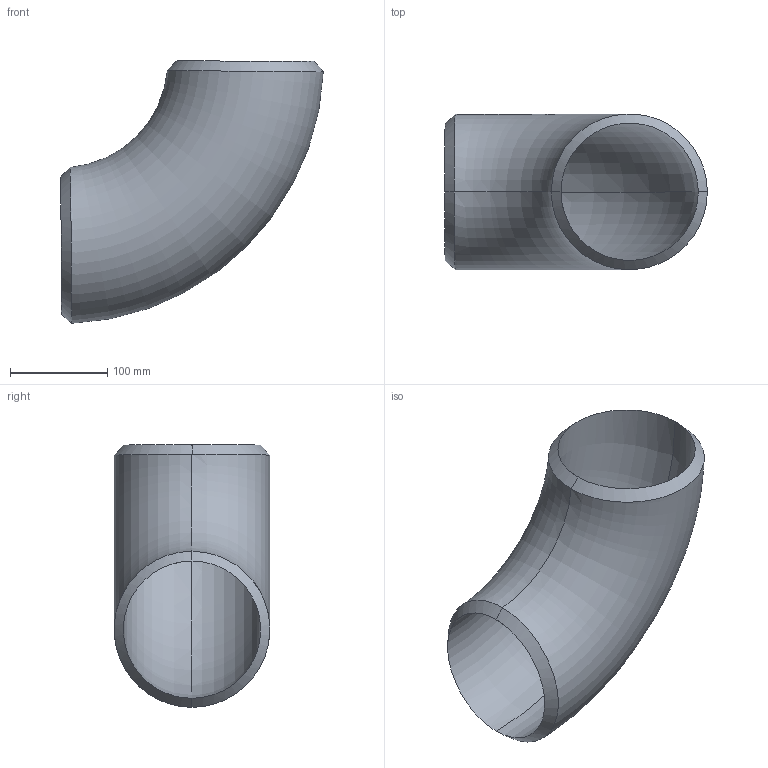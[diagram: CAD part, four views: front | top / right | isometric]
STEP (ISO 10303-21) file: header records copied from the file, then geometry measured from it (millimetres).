
FILE_DESCRIPTION (( 'STEP AP203' ), '1' );
FILE_NAME ('3D_R2651_5X80S_173421232_173425242.STEP', '2024-08-22T09:09:52', ( '' ), ( '' ), 'SwSTEP 2.0', 'SolidWorks 2024', '' );
FILE_SCHEMA (( 'CONFIG_CONTROL_DESIGN' ));
Length unit declared in the file: millimetre
Products named in the file (1): 3D_R2651_5X80S_173421232_173425242
Bounding box: 270.45 x 160.16 x 270.45 mm (x, y, z)
Volume: 1273729.8 mm3; surface area: 286323.8 mm2
Topology: 1 solids, 1 shells, 10 faces, 26 edges, 16 vertices
Faces by surface type: bspline 4, torus 4, plane 2
Entity records: 3515 total; most frequent: CARTESIAN_POINT 3229, ORIENTED_EDGE 52, DIRECTION 30, EDGE_CURVE 26, B_SPLINE_CURVE_WITH_KNOTS 18, VERTEX_POINT 16, AXIS2_PLACEMENT_3D 15, EDGE_LOOP 10
